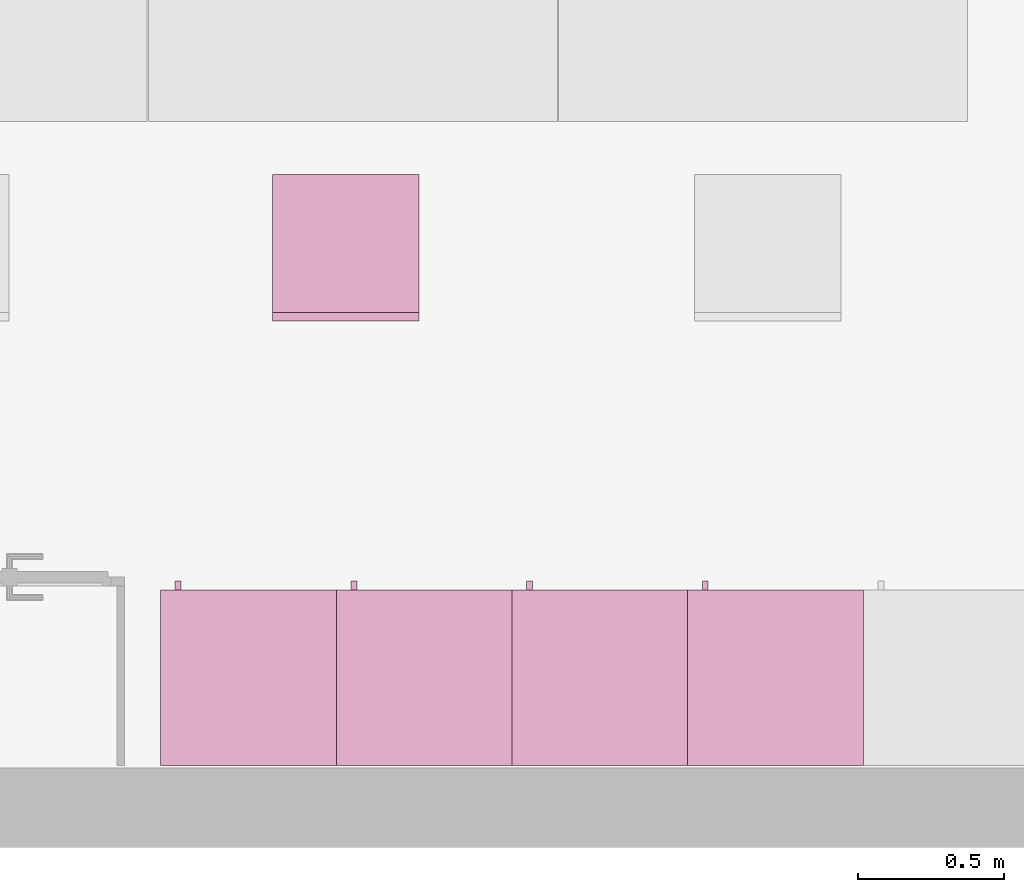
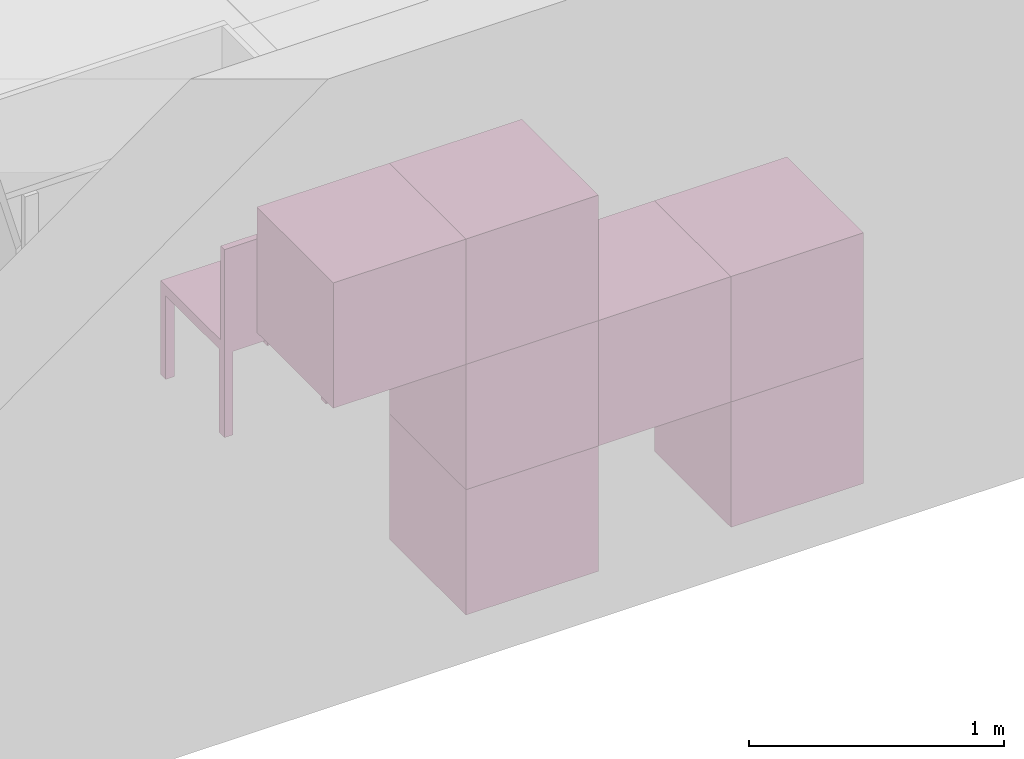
"""IFC4 building model written with IfcOpenShell, lengths in metres."""

from ifc_helpers import new_model, entity, si_unit, converted_unit, derived_unit, frame, origin, place, context, subcontext, project, spatial, faceted_brep, element, save


model = new_model("IFC4")

# Units and contexts
model_context = context("Model", 3, precision=1e-05, world=origin())
body_context = subcontext(model_context, "Body", "Model", "MODEL_VIEW")
ifc_project = project(units=[si_unit("LENGTHUNIT", "METRE"), si_unit("AREAUNIT", "SQUARE_METRE"), si_unit("VOLUMEUNIT", "CUBIC_METRE"), si_unit("MASSUNIT", "GRAM", prefix="KILO"), converted_unit("PLANEANGLEUNIT", "DEGREE", entity("IfcPlaneAngleMeasure", 0.0174532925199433), si_unit("PLANEANGLEUNIT", "RADIAN"), dimensions=[0, 0, 0, 0, 0, 0, 0]), derived_unit("THERMALTRANSMITTANCEUNIT", [(si_unit("POWERUNIT", "WATT"), 1), (si_unit("THERMODYNAMICTEMPERATUREUNIT", "KELVIN"), -1), (si_unit("LENGTHUNIT", "METRE"), -2)]), derived_unit("VOLUMETRICFLOWRATEUNIT", [(si_unit("LENGTHUNIT", "METRE"), 3), (converted_unit("TIMEUNIT", "hour", entity("IfcTimeMeasure", 3600.0), si_unit("TIMEUNIT", "SECOND"), dimensions=[0, 0, 1, 0, 0, 0, 0]), -1), (si_unit("LENGTHUNIT", "METRE"), -1)])], contexts=[model_context])

# Building, storeys
building_placement = place(None, origin())
building = spatial("IfcBuilding", under=ifc_project, at=building_placement, Name="HABITATGE PLURIFAMILIAR", CompositionType="ELEMENT")
storey_1_placement = place(building_placement, frame((0.0, 0.0, 15.28)))
storey_1 = spatial("IfcBuildingStorey", under=building, at=storey_1_placement, Name="PLANTA QUARTA", CompositionType="ELEMENT", Elevation=15.28)
storey_2_placement = place(storey_1_placement, frame((0.0, 0.0, 12.27)))
storey_2 = spatial("IfcBuildingStorey", under=storey_1, at=storey_2_placement, Name="NOU", CompositionType="PARTIAL")

# Furniture
furniture_1_placement = place(storey_2_placement, frame((409.28527037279, 13.1194598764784, -12.37)))
element("IfcFurniture", 1, at=furniture_1_placement, inside=storey_2, Name="Armai 60x60x60_P4", context=body_context, shape_type="Brep", body=[
    faceted_brep([(0.0, 0.6, 0.02), (0.0, 0.6, 0.0), (0.6, 0.6, 0.0), (0.6, 0.6, 0.02), (0.6, 0.0, 0.0), (0.6, 0.0, 0.02), (0.0, 0.0, 0.0), (0.0, 0.0, 0.02)], [[[0, 1, 2, 3]], [[3, 2, 4, 5]], [[5, 4, 6, 7]], [[7, 6, 1, 0]], [[0, 3, 5, 7]], [[1, 6, 4, 2]]], orient=[[False], [False], [False], [False], [False], [False]]),
    faceted_brep([(0.580000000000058, 0.0, 0.58), (0.580000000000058, 0.0200000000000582, 0.58), (0.580000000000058, 0.0200000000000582, 0.02), (0.580000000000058, 0.0, 0.02), (0.0200000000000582, 0.0200000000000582, 0.02), (0.0200000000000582, 0.0, 0.02), (0.0200000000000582, 0.0200000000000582, 0.58), (0.0200000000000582, 0.0, 0.58)], [[[0, 1, 2, 3]], [[3, 2, 4, 5]], [[5, 4, 6, 7]], [[7, 6, 1, 0]], [[0, 3, 5, 7]], [[1, 6, 4, 2]]], orient=[[False], [False], [False], [False], [False], [False]]),
    faceted_brep([(0.0200000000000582, 0.6, 0.58), (0.0, 0.6, 0.58), (0.0, 0.6, 0.02), (0.0200000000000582, 0.6, 0.02), (0.0, 0.0, 0.02), (0.0200000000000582, 0.0, 0.02), (0.0, 0.0, 0.58), (0.0200000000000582, 0.0, 0.58)], [[[0, 1, 2, 3]], [[3, 2, 4, 5]], [[5, 4, 6, 7]], [[7, 6, 1, 0]], [[0, 3, 5, 7]], [[1, 6, 4, 2]]], orient=[[False], [False], [False], [False], [False], [False]]),
    faceted_brep([(0.0, 0.58, 0.58), (0.0, 0.6, 0.58), (0.0, 0.6, 0.02), (0.0, 0.58, 0.02), (0.02, 0.6, 0.02), (0.02, 0.58, 0.02), (0.02, 0.6, 0.58), (0.02, 0.58, 0.58)], [[[0, 1, 2, 3]], [[3, 2, 4, 5]], [[5, 4, 6, 7]], [[7, 6, 1, 0]], [[0, 3, 5, 7]], [[1, 6, 4, 2]]], orient=[[False], [False], [False], [False], [False], [False]]),
    faceted_brep([(0.6, 0.6, 0.58), (0.58, 0.6, 0.58), (0.58, 0.6, 0.02), (0.6, 0.6, 0.02), (0.58, 0.0, 0.02), (0.6, 0.0, 0.02), (0.58, 0.0, 0.58), (0.6, 0.0, 0.58)], [[[0, 1, 2, 3]], [[3, 2, 4, 5]], [[5, 4, 6, 7]], [[7, 6, 1, 0]], [[0, 3, 5, 7]], [[1, 6, 4, 2]]], orient=[[False], [False], [False], [False], [False], [False]]),
    faceted_brep([(0.0, 0.600000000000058, 0.6), (0.0, 0.600000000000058, 0.58), (0.600000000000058, 0.600000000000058, 0.58), (0.600000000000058, 0.600000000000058, 0.6), (0.600000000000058, 0.0, 0.58), (0.600000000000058, 0.0, 0.6), (0.0, 0.0, 0.58), (0.0, 0.0, 0.6)], [[[0, 1, 2, 3]], [[3, 2, 4, 5]], [[5, 4, 6, 7]], [[7, 6, 1, 0]], [[0, 3, 5, 7]], [[1, 6, 4, 2]]], orient=[[False], [False], [False], [False], [False], [False]]),
    faceted_brep([(0.580000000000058, 0.580000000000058, 0.58), (0.580000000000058, 0.600000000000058, 0.58), (0.580000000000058, 0.600000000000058, 0.02), (0.580000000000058, 0.580000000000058, 0.02), (0.02, 0.600000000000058, 0.02), (0.02, 0.580000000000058, 0.02), (0.02, 0.600000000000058, 0.58), (0.02, 0.580000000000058, 0.58)], [[[0, 1, 2, 3]], [[3, 2, 4, 5]], [[5, 4, 6, 7]], [[7, 6, 1, 0]], [[0, 3, 5, 7]], [[1, 6, 4, 2]]], orient=[[False], [False], [False], [False], [False], [False]]),
    faceted_brep([(0.0700000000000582, 0.600000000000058, 0.358064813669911), (0.0700000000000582, 0.630000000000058, 0.358064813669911), (0.0700000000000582, 0.630000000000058, 0.258064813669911), (0.0700000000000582, 0.600000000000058, 0.258064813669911), (0.0500000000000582, 0.630000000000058, 0.258064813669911), (0.0500000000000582, 0.600000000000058, 0.258064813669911), (0.0500000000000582, 0.630000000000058, 0.358064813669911), (0.0500000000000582, 0.600000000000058, 0.358064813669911)], [[[0, 1, 2, 3]], [[3, 2, 4, 5]], [[5, 4, 6, 7]], [[7, 6, 1, 0]], [[0, 3, 5, 7]], [[1, 6, 4, 2]]], orient=[[False], [False], [False], [False], [False], [False]]),
])
furniture_2_placement = place(storey_2_placement, frame((408.68527037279, 13.1194598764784, -11.77)))
element("IfcFurniture", 2, at=furniture_2_placement, inside=storey_2, Name="Armai 60x60x60_P4", context=body_context, shape_type="Brep", body=[
    faceted_brep([(0.0, 0.6, 0.02), (0.0, 0.6, 0.0), (0.6, 0.6, 0.0), (0.6, 0.6, 0.02), (0.6, 0.0, 0.0), (0.6, 0.0, 0.02), (0.0, 0.0, 0.0), (0.0, 0.0, 0.02)], [[[0, 1, 2, 3]], [[3, 2, 4, 5]], [[5, 4, 6, 7]], [[7, 6, 1, 0]], [[0, 3, 5, 7]], [[1, 6, 4, 2]]], orient=[[False], [False], [False], [False], [False], [False]]),
    faceted_brep([(0.580000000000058, 0.0, 0.58), (0.580000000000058, 0.0200000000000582, 0.58), (0.580000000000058, 0.0200000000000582, 0.02), (0.580000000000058, 0.0, 0.02), (0.0200000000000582, 0.0200000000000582, 0.02), (0.0200000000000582, 0.0, 0.02), (0.0200000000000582, 0.0200000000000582, 0.58), (0.0200000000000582, 0.0, 0.58)], [[[0, 1, 2, 3]], [[3, 2, 4, 5]], [[5, 4, 6, 7]], [[7, 6, 1, 0]], [[0, 3, 5, 7]], [[1, 6, 4, 2]]], orient=[[False], [False], [False], [False], [False], [False]]),
    faceted_brep([(0.0200000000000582, 0.6, 0.58), (0.0, 0.6, 0.58), (0.0, 0.6, 0.02), (0.0200000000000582, 0.6, 0.02), (0.0, 0.0, 0.02), (0.0200000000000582, 0.0, 0.02), (0.0, 0.0, 0.58), (0.0200000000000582, 0.0, 0.58)], [[[0, 1, 2, 3]], [[3, 2, 4, 5]], [[5, 4, 6, 7]], [[7, 6, 1, 0]], [[0, 3, 5, 7]], [[1, 6, 4, 2]]], orient=[[False], [False], [False], [False], [False], [False]]),
    faceted_brep([(0.0, 0.58, 0.58), (0.0, 0.6, 0.58), (0.0, 0.6, 0.02), (0.0, 0.58, 0.02), (0.02, 0.6, 0.02), (0.02, 0.58, 0.02), (0.02, 0.6, 0.58), (0.02, 0.58, 0.58)], [[[0, 1, 2, 3]], [[3, 2, 4, 5]], [[5, 4, 6, 7]], [[7, 6, 1, 0]], [[0, 3, 5, 7]], [[1, 6, 4, 2]]], orient=[[False], [False], [False], [False], [False], [False]]),
    faceted_brep([(0.6, 0.6, 0.58), (0.58, 0.6, 0.58), (0.58, 0.6, 0.02), (0.6, 0.6, 0.02), (0.58, 0.0, 0.02), (0.6, 0.0, 0.02), (0.58, 0.0, 0.58), (0.6, 0.0, 0.58)], [[[0, 1, 2, 3]], [[3, 2, 4, 5]], [[5, 4, 6, 7]], [[7, 6, 1, 0]], [[0, 3, 5, 7]], [[1, 6, 4, 2]]], orient=[[False], [False], [False], [False], [False], [False]]),
    faceted_brep([(0.0, 0.600000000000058, 0.6), (0.0, 0.600000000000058, 0.58), (0.600000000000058, 0.600000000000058, 0.58), (0.600000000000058, 0.600000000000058, 0.6), (0.600000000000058, 0.0, 0.58), (0.600000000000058, 0.0, 0.6), (0.0, 0.0, 0.58), (0.0, 0.0, 0.6)], [[[0, 1, 2, 3]], [[3, 2, 4, 5]], [[5, 4, 6, 7]], [[7, 6, 1, 0]], [[0, 3, 5, 7]], [[1, 6, 4, 2]]], orient=[[False], [False], [False], [False], [False], [False]]),
    faceted_brep([(0.580000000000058, 0.580000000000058, 0.58), (0.580000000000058, 0.600000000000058, 0.58), (0.580000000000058, 0.600000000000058, 0.02), (0.580000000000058, 0.580000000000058, 0.02), (0.02, 0.600000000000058, 0.02), (0.02, 0.580000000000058, 0.02), (0.02, 0.600000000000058, 0.58), (0.02, 0.580000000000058, 0.58)], [[[0, 1, 2, 3]], [[3, 2, 4, 5]], [[5, 4, 6, 7]], [[7, 6, 1, 0]], [[0, 3, 5, 7]], [[1, 6, 4, 2]]], orient=[[False], [False], [False], [False], [False], [False]]),
    faceted_brep([(0.0700000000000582, 0.600000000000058, 0.358064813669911), (0.0700000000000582, 0.630000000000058, 0.358064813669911), (0.0700000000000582, 0.630000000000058, 0.258064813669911), (0.0700000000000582, 0.600000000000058, 0.258064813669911), (0.0500000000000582, 0.630000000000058, 0.258064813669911), (0.0500000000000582, 0.600000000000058, 0.258064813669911), (0.0500000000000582, 0.630000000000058, 0.358064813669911), (0.0500000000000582, 0.600000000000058, 0.358064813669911)], [[[0, 1, 2, 3]], [[3, 2, 4, 5]], [[5, 4, 6, 7]], [[7, 6, 1, 0]], [[0, 3, 5, 7]], [[1, 6, 4, 2]]], orient=[[False], [False], [False], [False], [False], [False]]),
])
furniture_3_placement = place(storey_2_placement, frame((409.28527037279, 13.1194598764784, -11.77)))
element("IfcFurniture", 3, at=furniture_3_placement, inside=storey_2, Name="Armai 60x60x60_P4", context=body_context, shape_type="Brep", body=[
    faceted_brep([(0.0, 0.6, 0.02), (0.0, 0.6, 0.0), (0.6, 0.6, 0.0), (0.6, 0.6, 0.02), (0.6, 0.0, 0.0), (0.6, 0.0, 0.02), (0.0, 0.0, 0.0), (0.0, 0.0, 0.02)], [[[0, 1, 2, 3]], [[3, 2, 4, 5]], [[5, 4, 6, 7]], [[7, 6, 1, 0]], [[0, 3, 5, 7]], [[1, 6, 4, 2]]], orient=[[False], [False], [False], [False], [False], [False]]),
    faceted_brep([(0.580000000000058, 0.0, 0.58), (0.580000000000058, 0.0200000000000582, 0.58), (0.580000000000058, 0.0200000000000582, 0.02), (0.580000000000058, 0.0, 0.02), (0.0200000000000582, 0.0200000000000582, 0.02), (0.0200000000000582, 0.0, 0.02), (0.0200000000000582, 0.0200000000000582, 0.58), (0.0200000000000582, 0.0, 0.58)], [[[0, 1, 2, 3]], [[3, 2, 4, 5]], [[5, 4, 6, 7]], [[7, 6, 1, 0]], [[0, 3, 5, 7]], [[1, 6, 4, 2]]], orient=[[False], [False], [False], [False], [False], [False]]),
    faceted_brep([(0.0200000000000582, 0.6, 0.58), (0.0, 0.6, 0.58), (0.0, 0.6, 0.02), (0.0200000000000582, 0.6, 0.02), (0.0, 0.0, 0.02), (0.0200000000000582, 0.0, 0.02), (0.0, 0.0, 0.58), (0.0200000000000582, 0.0, 0.58)], [[[0, 1, 2, 3]], [[3, 2, 4, 5]], [[5, 4, 6, 7]], [[7, 6, 1, 0]], [[0, 3, 5, 7]], [[1, 6, 4, 2]]], orient=[[False], [False], [False], [False], [False], [False]]),
    faceted_brep([(0.0, 0.58, 0.58), (0.0, 0.6, 0.58), (0.0, 0.6, 0.02), (0.0, 0.58, 0.02), (0.02, 0.6, 0.02), (0.02, 0.58, 0.02), (0.02, 0.6, 0.58), (0.02, 0.58, 0.58)], [[[0, 1, 2, 3]], [[3, 2, 4, 5]], [[5, 4, 6, 7]], [[7, 6, 1, 0]], [[0, 3, 5, 7]], [[1, 6, 4, 2]]], orient=[[False], [False], [False], [False], [False], [False]]),
    faceted_brep([(0.6, 0.6, 0.58), (0.58, 0.6, 0.58), (0.58, 0.6, 0.02), (0.6, 0.6, 0.02), (0.58, 0.0, 0.02), (0.6, 0.0, 0.02), (0.58, 0.0, 0.58), (0.6, 0.0, 0.58)], [[[0, 1, 2, 3]], [[3, 2, 4, 5]], [[5, 4, 6, 7]], [[7, 6, 1, 0]], [[0, 3, 5, 7]], [[1, 6, 4, 2]]], orient=[[False], [False], [False], [False], [False], [False]]),
    faceted_brep([(0.0, 0.600000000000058, 0.6), (0.0, 0.600000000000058, 0.58), (0.600000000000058, 0.600000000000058, 0.58), (0.600000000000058, 0.600000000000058, 0.6), (0.600000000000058, 0.0, 0.58), (0.600000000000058, 0.0, 0.6), (0.0, 0.0, 0.58), (0.0, 0.0, 0.6)], [[[0, 1, 2, 3]], [[3, 2, 4, 5]], [[5, 4, 6, 7]], [[7, 6, 1, 0]], [[0, 3, 5, 7]], [[1, 6, 4, 2]]], orient=[[False], [False], [False], [False], [False], [False]]),
    faceted_brep([(0.580000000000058, 0.580000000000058, 0.58), (0.580000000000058, 0.600000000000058, 0.58), (0.580000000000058, 0.600000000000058, 0.02), (0.580000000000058, 0.580000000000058, 0.02), (0.02, 0.600000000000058, 0.02), (0.02, 0.580000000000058, 0.02), (0.02, 0.600000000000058, 0.58), (0.02, 0.580000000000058, 0.58)], [[[0, 1, 2, 3]], [[3, 2, 4, 5]], [[5, 4, 6, 7]], [[7, 6, 1, 0]], [[0, 3, 5, 7]], [[1, 6, 4, 2]]], orient=[[False], [False], [False], [False], [False], [False]]),
    faceted_brep([(0.0700000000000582, 0.600000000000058, 0.358064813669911), (0.0700000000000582, 0.630000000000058, 0.358064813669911), (0.0700000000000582, 0.630000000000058, 0.258064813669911), (0.0700000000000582, 0.600000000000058, 0.258064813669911), (0.0500000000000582, 0.630000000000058, 0.258064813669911), (0.0500000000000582, 0.600000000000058, 0.258064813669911), (0.0500000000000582, 0.630000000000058, 0.358064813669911), (0.0500000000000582, 0.600000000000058, 0.358064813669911)], [[[0, 1, 2, 3]], [[3, 2, 4, 5]], [[5, 4, 6, 7]], [[7, 6, 1, 0]], [[0, 3, 5, 7]], [[1, 6, 4, 2]]], orient=[[False], [False], [False], [False], [False], [False]]),
])
furniture_4_placement = place(storey_2_placement, frame((408.08527037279, 13.1194598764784, -12.37)))
element("IfcFurniture", 4, at=furniture_4_placement, inside=storey_2, Name="Armai 60x60x60_P4", context=body_context, shape_type="Brep", body=[
    faceted_brep([(0.0, 0.6, 0.02), (0.0, 0.6, 0.0), (0.6, 0.6, 0.0), (0.6, 0.6, 0.02), (0.6, 0.0, 0.0), (0.6, 0.0, 0.02), (0.0, 0.0, 0.0), (0.0, 0.0, 0.02)], [[[0, 1, 2, 3]], [[3, 2, 4, 5]], [[5, 4, 6, 7]], [[7, 6, 1, 0]], [[0, 3, 5, 7]], [[1, 6, 4, 2]]], orient=[[False], [False], [False], [False], [False], [False]]),
    faceted_brep([(0.580000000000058, 0.0, 0.58), (0.580000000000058, 0.0200000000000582, 0.58), (0.580000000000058, 0.0200000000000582, 0.02), (0.580000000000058, 0.0, 0.02), (0.0200000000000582, 0.0200000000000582, 0.02), (0.0200000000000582, 0.0, 0.02), (0.0200000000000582, 0.0200000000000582, 0.58), (0.0200000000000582, 0.0, 0.58)], [[[0, 1, 2, 3]], [[3, 2, 4, 5]], [[5, 4, 6, 7]], [[7, 6, 1, 0]], [[0, 3, 5, 7]], [[1, 6, 4, 2]]], orient=[[False], [False], [False], [False], [False], [False]]),
    faceted_brep([(0.0200000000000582, 0.6, 0.58), (0.0, 0.6, 0.58), (0.0, 0.6, 0.02), (0.0200000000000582, 0.6, 0.02), (0.0, 0.0, 0.02), (0.0200000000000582, 0.0, 0.02), (0.0, 0.0, 0.58), (0.0200000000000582, 0.0, 0.58)], [[[0, 1, 2, 3]], [[3, 2, 4, 5]], [[5, 4, 6, 7]], [[7, 6, 1, 0]], [[0, 3, 5, 7]], [[1, 6, 4, 2]]], orient=[[False], [False], [False], [False], [False], [False]]),
    faceted_brep([(0.0, 0.58, 0.58), (0.0, 0.6, 0.58), (0.0, 0.6, 0.02), (0.0, 0.58, 0.02), (0.02, 0.6, 0.02), (0.02, 0.58, 0.02), (0.02, 0.6, 0.58), (0.02, 0.58, 0.58)], [[[0, 1, 2, 3]], [[3, 2, 4, 5]], [[5, 4, 6, 7]], [[7, 6, 1, 0]], [[0, 3, 5, 7]], [[1, 6, 4, 2]]], orient=[[False], [False], [False], [False], [False], [False]]),
    faceted_brep([(0.6, 0.6, 0.58), (0.58, 0.6, 0.58), (0.58, 0.6, 0.02), (0.6, 0.6, 0.02), (0.58, 0.0, 0.02), (0.6, 0.0, 0.02), (0.58, 0.0, 0.58), (0.6, 0.0, 0.58)], [[[0, 1, 2, 3]], [[3, 2, 4, 5]], [[5, 4, 6, 7]], [[7, 6, 1, 0]], [[0, 3, 5, 7]], [[1, 6, 4, 2]]], orient=[[False], [False], [False], [False], [False], [False]]),
    faceted_brep([(0.0, 0.600000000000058, 0.6), (0.0, 0.600000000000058, 0.58), (0.600000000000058, 0.600000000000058, 0.58), (0.600000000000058, 0.600000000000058, 0.6), (0.600000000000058, 0.0, 0.58), (0.600000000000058, 0.0, 0.6), (0.0, 0.0, 0.58), (0.0, 0.0, 0.6)], [[[0, 1, 2, 3]], [[3, 2, 4, 5]], [[5, 4, 6, 7]], [[7, 6, 1, 0]], [[0, 3, 5, 7]], [[1, 6, 4, 2]]], orient=[[False], [False], [False], [False], [False], [False]]),
    faceted_brep([(0.580000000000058, 0.580000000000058, 0.58), (0.580000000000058, 0.600000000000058, 0.58), (0.580000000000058, 0.600000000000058, 0.02), (0.580000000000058, 0.580000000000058, 0.02), (0.02, 0.600000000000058, 0.02), (0.02, 0.580000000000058, 0.02), (0.02, 0.600000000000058, 0.58), (0.02, 0.580000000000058, 0.58)], [[[0, 1, 2, 3]], [[3, 2, 4, 5]], [[5, 4, 6, 7]], [[7, 6, 1, 0]], [[0, 3, 5, 7]], [[1, 6, 4, 2]]], orient=[[False], [False], [False], [False], [False], [False]]),
    faceted_brep([(0.0700000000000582, 0.600000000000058, 0.358064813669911), (0.0700000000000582, 0.630000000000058, 0.358064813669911), (0.0700000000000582, 0.630000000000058, 0.258064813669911), (0.0700000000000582, 0.600000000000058, 0.258064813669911), (0.0500000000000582, 0.630000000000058, 0.258064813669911), (0.0500000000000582, 0.600000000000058, 0.258064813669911), (0.0500000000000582, 0.630000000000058, 0.358064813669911), (0.0500000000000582, 0.600000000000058, 0.358064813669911)], [[[0, 1, 2, 3]], [[3, 2, 4, 5]], [[5, 4, 6, 7]], [[7, 6, 1, 0]], [[0, 3, 5, 7]], [[1, 6, 4, 2]]], orient=[[False], [False], [False], [False], [False], [False]]),
])
furniture_5_placement = place(storey_2_placement, frame((408.08527037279, 13.1194598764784, -11.77)))
element("IfcFurniture", 5, at=furniture_5_placement, inside=storey_2, Name="Armai 60x60x60_P4", context=body_context, shape_type="Brep", body=[
    faceted_brep([(0.0, 0.6, 0.02), (0.0, 0.6, 0.0), (0.6, 0.6, 0.0), (0.6, 0.6, 0.02), (0.6, 0.0, 0.0), (0.6, 0.0, 0.02), (0.0, 0.0, 0.0), (0.0, 0.0, 0.02)], [[[0, 1, 2, 3]], [[3, 2, 4, 5]], [[5, 4, 6, 7]], [[7, 6, 1, 0]], [[0, 3, 5, 7]], [[1, 6, 4, 2]]], orient=[[False], [False], [False], [False], [False], [False]]),
    faceted_brep([(0.580000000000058, 0.0, 0.58), (0.580000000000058, 0.0200000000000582, 0.58), (0.580000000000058, 0.0200000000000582, 0.02), (0.580000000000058, 0.0, 0.02), (0.0200000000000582, 0.0200000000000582, 0.02), (0.0200000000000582, 0.0, 0.02), (0.0200000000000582, 0.0200000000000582, 0.58), (0.0200000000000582, 0.0, 0.58)], [[[0, 1, 2, 3]], [[3, 2, 4, 5]], [[5, 4, 6, 7]], [[7, 6, 1, 0]], [[0, 3, 5, 7]], [[1, 6, 4, 2]]], orient=[[False], [False], [False], [False], [False], [False]]),
    faceted_brep([(0.0200000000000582, 0.6, 0.58), (0.0, 0.6, 0.58), (0.0, 0.6, 0.02), (0.0200000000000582, 0.6, 0.02), (0.0, 0.0, 0.02), (0.0200000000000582, 0.0, 0.02), (0.0, 0.0, 0.58), (0.0200000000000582, 0.0, 0.58)], [[[0, 1, 2, 3]], [[3, 2, 4, 5]], [[5, 4, 6, 7]], [[7, 6, 1, 0]], [[0, 3, 5, 7]], [[1, 6, 4, 2]]], orient=[[False], [False], [False], [False], [False], [False]]),
    faceted_brep([(0.0, 0.58, 0.58), (0.0, 0.6, 0.58), (0.0, 0.6, 0.02), (0.0, 0.58, 0.02), (0.02, 0.6, 0.02), (0.02, 0.58, 0.02), (0.02, 0.6, 0.58), (0.02, 0.58, 0.58)], [[[0, 1, 2, 3]], [[3, 2, 4, 5]], [[5, 4, 6, 7]], [[7, 6, 1, 0]], [[0, 3, 5, 7]], [[1, 6, 4, 2]]], orient=[[False], [False], [False], [False], [False], [False]]),
    faceted_brep([(0.6, 0.6, 0.58), (0.58, 0.6, 0.58), (0.58, 0.6, 0.02), (0.6, 0.6, 0.02), (0.58, 0.0, 0.02), (0.6, 0.0, 0.02), (0.58, 0.0, 0.58), (0.6, 0.0, 0.58)], [[[0, 1, 2, 3]], [[3, 2, 4, 5]], [[5, 4, 6, 7]], [[7, 6, 1, 0]], [[0, 3, 5, 7]], [[1, 6, 4, 2]]], orient=[[False], [False], [False], [False], [False], [False]]),
    faceted_brep([(0.0, 0.600000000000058, 0.6), (0.0, 0.600000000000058, 0.58), (0.600000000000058, 0.600000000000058, 0.58), (0.600000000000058, 0.600000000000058, 0.6), (0.600000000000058, 0.0, 0.58), (0.600000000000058, 0.0, 0.6), (0.0, 0.0, 0.58), (0.0, 0.0, 0.6)], [[[0, 1, 2, 3]], [[3, 2, 4, 5]], [[5, 4, 6, 7]], [[7, 6, 1, 0]], [[0, 3, 5, 7]], [[1, 6, 4, 2]]], orient=[[False], [False], [False], [False], [False], [False]]),
    faceted_brep([(0.580000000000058, 0.580000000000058, 0.58), (0.580000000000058, 0.600000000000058, 0.58), (0.580000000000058, 0.600000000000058, 0.02), (0.580000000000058, 0.580000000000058, 0.02), (0.02, 0.600000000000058, 0.02), (0.02, 0.580000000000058, 0.02), (0.02, 0.600000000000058, 0.58), (0.02, 0.580000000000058, 0.58)], [[[0, 1, 2, 3]], [[3, 2, 4, 5]], [[5, 4, 6, 7]], [[7, 6, 1, 0]], [[0, 3, 5, 7]], [[1, 6, 4, 2]]], orient=[[False], [False], [False], [False], [False], [False]]),
    faceted_brep([(0.0700000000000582, 0.600000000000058, 0.358064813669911), (0.0700000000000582, 0.630000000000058, 0.358064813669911), (0.0700000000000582, 0.630000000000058, 0.258064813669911), (0.0700000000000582, 0.600000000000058, 0.258064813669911), (0.0500000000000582, 0.630000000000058, 0.258064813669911), (0.0500000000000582, 0.600000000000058, 0.258064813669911), (0.0500000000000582, 0.630000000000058, 0.358064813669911), (0.0500000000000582, 0.600000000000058, 0.358064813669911)], [[[0, 1, 2, 3]], [[3, 2, 4, 5]], [[5, 4, 6, 7]], [[7, 6, 1, 0]], [[0, 3, 5, 7]], [[1, 6, 4, 2]]], orient=[[False], [False], [False], [False], [False], [False]]),
])
furniture_6_placement = place(storey_2_placement, frame((407.48527037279, 13.1194598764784, -11.17)))
element("IfcFurniture", 6, at=furniture_6_placement, inside=storey_2, Name="Armai 60x60x60_P4", context=body_context, shape_type="Brep", body=[
    faceted_brep([(0.0, 0.6, 0.02), (0.0, 0.6, 0.0), (0.6, 0.6, 0.0), (0.6, 0.6, 0.02), (0.6, 0.0, 0.0), (0.6, 0.0, 0.02), (0.0, 0.0, 0.0), (0.0, 0.0, 0.02)], [[[0, 1, 2, 3]], [[3, 2, 4, 5]], [[5, 4, 6, 7]], [[7, 6, 1, 0]], [[0, 3, 5, 7]], [[1, 6, 4, 2]]], orient=[[False], [False], [False], [False], [False], [False]]),
    faceted_brep([(0.580000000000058, 0.0, 0.58), (0.580000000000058, 0.0200000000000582, 0.58), (0.580000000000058, 0.0200000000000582, 0.02), (0.580000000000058, 0.0, 0.02), (0.0200000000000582, 0.0200000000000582, 0.02), (0.0200000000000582, 0.0, 0.02), (0.0200000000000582, 0.0200000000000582, 0.58), (0.0200000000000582, 0.0, 0.58)], [[[0, 1, 2, 3]], [[3, 2, 4, 5]], [[5, 4, 6, 7]], [[7, 6, 1, 0]], [[0, 3, 5, 7]], [[1, 6, 4, 2]]], orient=[[False], [False], [False], [False], [False], [False]]),
    faceted_brep([(0.0200000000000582, 0.6, 0.58), (0.0, 0.6, 0.58), (0.0, 0.6, 0.02), (0.0200000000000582, 0.6, 0.02), (0.0, 0.0, 0.02), (0.0200000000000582, 0.0, 0.02), (0.0, 0.0, 0.58), (0.0200000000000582, 0.0, 0.58)], [[[0, 1, 2, 3]], [[3, 2, 4, 5]], [[5, 4, 6, 7]], [[7, 6, 1, 0]], [[0, 3, 5, 7]], [[1, 6, 4, 2]]], orient=[[False], [False], [False], [False], [False], [False]]),
    faceted_brep([(0.0, 0.58, 0.58), (0.0, 0.6, 0.58), (0.0, 0.6, 0.02), (0.0, 0.58, 0.02), (0.02, 0.6, 0.02), (0.02, 0.58, 0.02), (0.02, 0.6, 0.58), (0.02, 0.58, 0.58)], [[[0, 1, 2, 3]], [[3, 2, 4, 5]], [[5, 4, 6, 7]], [[7, 6, 1, 0]], [[0, 3, 5, 7]], [[1, 6, 4, 2]]], orient=[[False], [False], [False], [False], [False], [False]]),
    faceted_brep([(0.6, 0.6, 0.58), (0.58, 0.6, 0.58), (0.58, 0.6, 0.02), (0.6, 0.6, 0.02), (0.58, 0.0, 0.02), (0.6, 0.0, 0.02), (0.58, 0.0, 0.58), (0.6, 0.0, 0.58)], [[[0, 1, 2, 3]], [[3, 2, 4, 5]], [[5, 4, 6, 7]], [[7, 6, 1, 0]], [[0, 3, 5, 7]], [[1, 6, 4, 2]]], orient=[[False], [False], [False], [False], [False], [False]]),
    faceted_brep([(0.0, 0.600000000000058, 0.6), (0.0, 0.600000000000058, 0.58), (0.600000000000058, 0.600000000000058, 0.58), (0.600000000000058, 0.600000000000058, 0.6), (0.600000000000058, 0.0, 0.58), (0.600000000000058, 0.0, 0.6), (0.0, 0.0, 0.58), (0.0, 0.0, 0.6)], [[[0, 1, 2, 3]], [[3, 2, 4, 5]], [[5, 4, 6, 7]], [[7, 6, 1, 0]], [[0, 3, 5, 7]], [[1, 6, 4, 2]]], orient=[[False], [False], [False], [False], [False], [False]]),
    faceted_brep([(0.580000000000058, 0.580000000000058, 0.58), (0.580000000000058, 0.600000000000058, 0.58), (0.580000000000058, 0.600000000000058, 0.02), (0.580000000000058, 0.580000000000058, 0.02), (0.02, 0.600000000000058, 0.02), (0.02, 0.580000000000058, 0.02), (0.02, 0.600000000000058, 0.58), (0.02, 0.580000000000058, 0.58)], [[[0, 1, 2, 3]], [[3, 2, 4, 5]], [[5, 4, 6, 7]], [[7, 6, 1, 0]], [[0, 3, 5, 7]], [[1, 6, 4, 2]]], orient=[[False], [False], [False], [False], [False], [False]]),
    faceted_brep([(0.0700000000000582, 0.600000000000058, 0.358064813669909), (0.0700000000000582, 0.630000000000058, 0.358064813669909), (0.0700000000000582, 0.630000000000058, 0.258064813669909), (0.0700000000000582, 0.600000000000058, 0.258064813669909), (0.0500000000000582, 0.630000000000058, 0.258064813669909), (0.0500000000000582, 0.600000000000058, 0.258064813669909), (0.0500000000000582, 0.630000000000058, 0.358064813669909), (0.0500000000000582, 0.600000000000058, 0.358064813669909)], [[[0, 1, 2, 3]], [[3, 2, 4, 5]], [[5, 4, 6, 7]], [[7, 6, 1, 0]], [[0, 3, 5, 7]], [[1, 6, 4, 2]]], orient=[[False], [False], [False], [False], [False], [False]]),
])
furniture_7_placement = place(storey_2_placement, frame((408.08527037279, 13.1194598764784, -11.17)))
element("IfcFurniture", 7, at=furniture_7_placement, inside=storey_2, Name="Armai 60x60x60_P4", context=body_context, shape_type="Brep", body=[
    faceted_brep([(0.0, 0.6, 0.02), (0.0, 0.6, 0.0), (0.6, 0.6, 0.0), (0.6, 0.6, 0.02), (0.6, 0.0, 0.0), (0.6, 0.0, 0.02), (0.0, 0.0, 0.0), (0.0, 0.0, 0.02)], [[[0, 1, 2, 3]], [[3, 2, 4, 5]], [[5, 4, 6, 7]], [[7, 6, 1, 0]], [[0, 3, 5, 7]], [[1, 6, 4, 2]]], orient=[[False], [False], [False], [False], [False], [False]]),
    faceted_brep([(0.580000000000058, 0.0, 0.58), (0.580000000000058, 0.0200000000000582, 0.58), (0.580000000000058, 0.0200000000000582, 0.02), (0.580000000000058, 0.0, 0.02), (0.0200000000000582, 0.0200000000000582, 0.02), (0.0200000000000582, 0.0, 0.02), (0.0200000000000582, 0.0200000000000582, 0.58), (0.0200000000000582, 0.0, 0.58)], [[[0, 1, 2, 3]], [[3, 2, 4, 5]], [[5, 4, 6, 7]], [[7, 6, 1, 0]], [[0, 3, 5, 7]], [[1, 6, 4, 2]]], orient=[[False], [False], [False], [False], [False], [False]]),
    faceted_brep([(0.0200000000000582, 0.6, 0.58), (0.0, 0.6, 0.58), (0.0, 0.6, 0.02), (0.0200000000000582, 0.6, 0.02), (0.0, 0.0, 0.02), (0.0200000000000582, 0.0, 0.02), (0.0, 0.0, 0.58), (0.0200000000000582, 0.0, 0.58)], [[[0, 1, 2, 3]], [[3, 2, 4, 5]], [[5, 4, 6, 7]], [[7, 6, 1, 0]], [[0, 3, 5, 7]], [[1, 6, 4, 2]]], orient=[[False], [False], [False], [False], [False], [False]]),
    faceted_brep([(0.0, 0.58, 0.58), (0.0, 0.6, 0.58), (0.0, 0.6, 0.02), (0.0, 0.58, 0.02), (0.02, 0.6, 0.02), (0.02, 0.58, 0.02), (0.02, 0.6, 0.58), (0.02, 0.58, 0.58)], [[[0, 1, 2, 3]], [[3, 2, 4, 5]], [[5, 4, 6, 7]], [[7, 6, 1, 0]], [[0, 3, 5, 7]], [[1, 6, 4, 2]]], orient=[[False], [False], [False], [False], [False], [False]]),
    faceted_brep([(0.6, 0.6, 0.58), (0.58, 0.6, 0.58), (0.58, 0.6, 0.02), (0.6, 0.6, 0.02), (0.58, 0.0, 0.02), (0.6, 0.0, 0.02), (0.58, 0.0, 0.58), (0.6, 0.0, 0.58)], [[[0, 1, 2, 3]], [[3, 2, 4, 5]], [[5, 4, 6, 7]], [[7, 6, 1, 0]], [[0, 3, 5, 7]], [[1, 6, 4, 2]]], orient=[[False], [False], [False], [False], [False], [False]]),
    faceted_brep([(0.0, 0.600000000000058, 0.6), (0.0, 0.600000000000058, 0.58), (0.600000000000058, 0.600000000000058, 0.58), (0.600000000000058, 0.600000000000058, 0.6), (0.600000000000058, 0.0, 0.58), (0.600000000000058, 0.0, 0.6), (0.0, 0.0, 0.58), (0.0, 0.0, 0.6)], [[[0, 1, 2, 3]], [[3, 2, 4, 5]], [[5, 4, 6, 7]], [[7, 6, 1, 0]], [[0, 3, 5, 7]], [[1, 6, 4, 2]]], orient=[[False], [False], [False], [False], [False], [False]]),
    faceted_brep([(0.580000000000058, 0.580000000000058, 0.58), (0.580000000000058, 0.600000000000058, 0.58), (0.580000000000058, 0.600000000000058, 0.02), (0.580000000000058, 0.580000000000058, 0.02), (0.02, 0.600000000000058, 0.02), (0.02, 0.580000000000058, 0.02), (0.02, 0.600000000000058, 0.58), (0.02, 0.580000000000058, 0.58)], [[[0, 1, 2, 3]], [[3, 2, 4, 5]], [[5, 4, 6, 7]], [[7, 6, 1, 0]], [[0, 3, 5, 7]], [[1, 6, 4, 2]]], orient=[[False], [False], [False], [False], [False], [False]]),
    faceted_brep([(0.0700000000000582, 0.600000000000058, 0.358064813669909), (0.0700000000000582, 0.630000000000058, 0.358064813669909), (0.0700000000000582, 0.630000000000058, 0.258064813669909), (0.0700000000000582, 0.600000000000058, 0.258064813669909), (0.0500000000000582, 0.630000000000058, 0.258064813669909), (0.0500000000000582, 0.600000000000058, 0.258064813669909), (0.0500000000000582, 0.630000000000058, 0.358064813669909), (0.0500000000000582, 0.600000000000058, 0.358064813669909)], [[[0, 1, 2, 3]], [[3, 2, 4, 5]], [[5, 4, 6, 7]], [[7, 6, 1, 0]], [[0, 3, 5, 7]], [[1, 6, 4, 2]]], orient=[[False], [False], [False], [False], [False], [False]]),
])
furniture_8_placement = place(storey_2_placement, frame((407.868161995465, 14.6372469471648, -12.3653305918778)))
element("IfcFurniture", 8, at=furniture_8_placement, inside=storey_2, Name="Cadira d'Oficina_P4", context=body_context, shape_type="Brep", body=[
    faceted_brep([(0.5, 0.5, 0.399999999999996), (0.0, 0.500000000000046, 0.399999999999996), (0.0, 0.0, 0.399999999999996), (0.5, 0.0, 0.399999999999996), (0.5, 0.0, 0.449999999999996), (0.0, 0.0, 0.449999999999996), (0.0, 0.500000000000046, 0.449999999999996), (0.5, 0.5, 0.449999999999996)], [[[0, 1, 2, 3]], [[4, 5, 6, 7]], [[3, 4, 7, 0]], [[2, 5, 4, 3]], [[1, 6, 5, 2]], [[0, 7, 6, 1]]], orient=[[False], [False], [False], [False], [False], [False]]),
    faceted_brep([(0.0, 0.0400000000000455, 0.0), (0.0, 0.0, 0.0), (0.04, 0.0, 0.0), (0.04, 0.0400000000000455, 0.0), (0.04, 0.0400000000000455, 0.4), (0.04, 0.0, 0.4), (0.0, 0.0, 0.4), (0.0, 0.0400000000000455, 0.4)], [[[0, 1, 2, 3]], [[4, 5, 6, 7]], [[3, 4, 7, 0]], [[2, 5, 4, 3]], [[1, 6, 5, 2]], [[0, 7, 6, 1]]], orient=[[False], [False], [False], [False], [False], [False]]),
    faceted_brep([(0.0, 0.500000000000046, 0.0), (0.0, 0.460000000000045, 0.0), (0.04, 0.460000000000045, 0.0), (0.04, 0.500000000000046, 0.0), (0.04, 0.500000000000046, 0.4), (0.04, 0.460000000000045, 0.4), (0.0, 0.460000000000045, 0.4), (0.0, 0.500000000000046, 0.4)], [[[0, 1, 2, 3]], [[4, 5, 6, 7]], [[3, 4, 7, 0]], [[2, 5, 4, 3]], [[1, 6, 5, 2]], [[0, 7, 6, 1]]], orient=[[False], [False], [False], [False], [False], [False]]),
    faceted_brep([(0.46, 0.04, 0.0), (0.46, 0.0, 0.0), (0.5, 0.0, 0.0), (0.5, 0.04, 0.0), (0.5, 0.04, 0.4), (0.5, 0.0, 0.4), (0.46, 0.0, 0.4), (0.46, 0.04, 0.4)], [[[0, 1, 2, 3]], [[4, 5, 6, 7]], [[3, 4, 7, 0]], [[2, 5, 4, 3]], [[1, 6, 5, 2]], [[0, 7, 6, 1]]], orient=[[False], [False], [False], [False], [False], [False]]),
    faceted_brep([(0.46, 0.5, 0.0), (0.46, 0.46, 0.0), (0.5, 0.46, 0.0), (0.5, 0.5, 0.0), (0.5, 0.5, 0.4), (0.5, 0.46, 0.4), (0.46, 0.46, 0.4), (0.46, 0.5, 0.4)], [[[0, 1, 2, 3]], [[4, 5, 6, 7]], [[3, 4, 7, 0]], [[2, 5, 4, 3]], [[1, 6, 5, 2]], [[0, 7, 6, 1]]], orient=[[False], [False], [False], [False], [False], [False]]),
    faceted_brep([(0.0, 0.0300000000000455, 0.45), (0.0, 0.0, 0.45), (0.5, 0.0, 0.45), (0.5, 0.03, 0.45), (0.5, 0.03, 0.9), (0.5, 0.0, 0.9), (0.0, 0.0, 0.9), (0.0, 0.0300000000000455, 0.9)], [[[0, 1, 2, 3]], [[4, 5, 6, 7]], [[3, 4, 7, 0]], [[2, 5, 4, 3]], [[1, 6, 5, 2]], [[0, 7, 6, 1]]], orient=[[False], [False], [False], [False], [False], [False]]),
])

save(model, "model.ifc")
